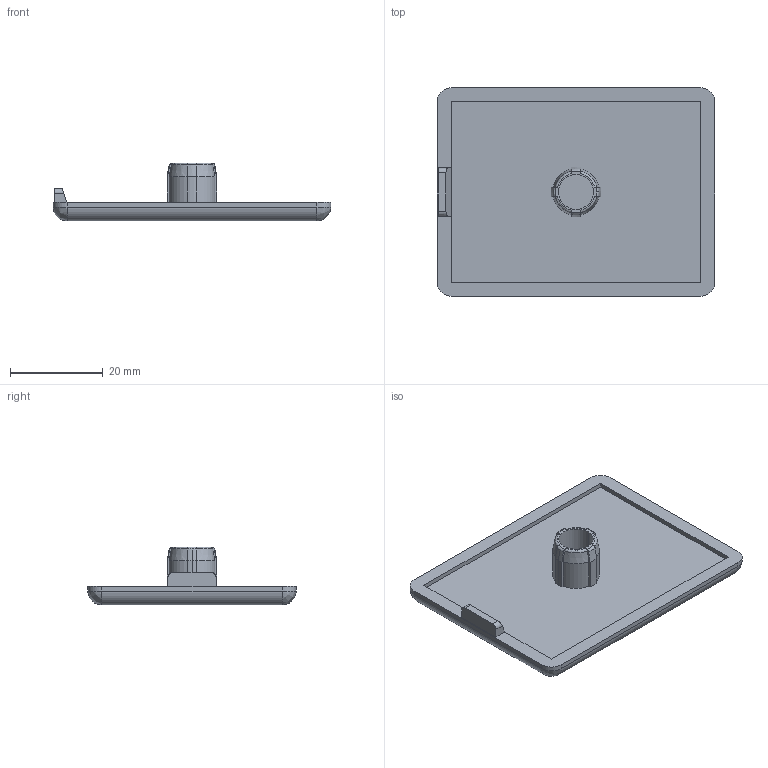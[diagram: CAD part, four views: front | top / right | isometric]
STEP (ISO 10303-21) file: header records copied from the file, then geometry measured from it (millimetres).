
FILE_DESCRIPTION (( 'STEP AP203' ), '1' );
FILE_NAME ('401040_Abdeckkappe 45x60 Nut 10.step', '2022-05-13T07:01:14', ( '' ), ( '' ), 'SwSTEP 2.0', 'SolidWorks 2021', '' );
FILE_SCHEMA (( 'CONFIG_CONTROL_DESIGN' ));
Length unit declared in the file: millimetre
Products named in the file (1): 401040_Abdeckkappe 45x60 Nut 10
Bounding box: 60 x 45 x 12.5 mm (x, y, z)
Volume: 8685 mm3; surface area: 6714.7 mm2
Topology: 1 solids, 1 shells, 69 faces, 181 edges, 113 vertices
Faces by surface type: plane 26, cylinder 21, bspline 13, cone 9
Entity records: 2371 total; most frequent: CARTESIAN_POINT 718, ORIENTED_EDGE 354, DIRECTION 299, EDGE_CURVE 177, VERTEX_POINT 113, AXIS2_PLACEMENT_3D 108, LINE 83, VECTOR 83
